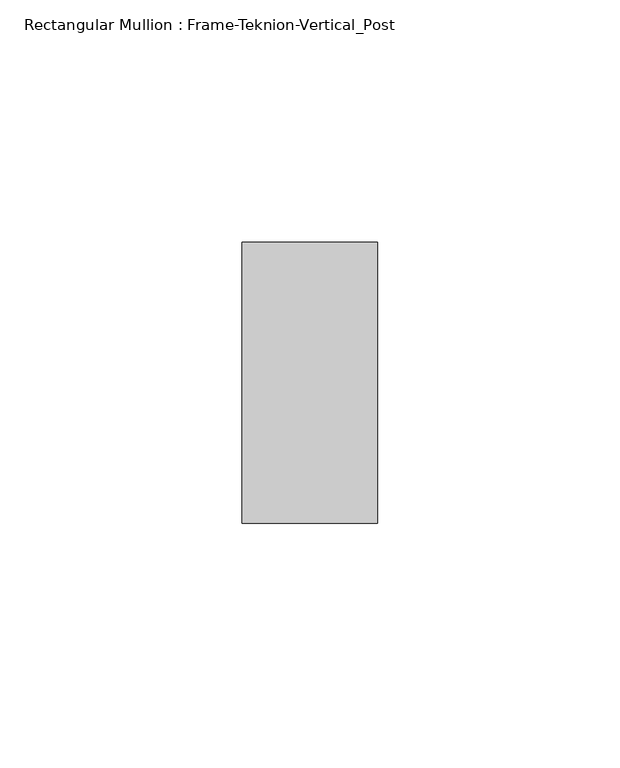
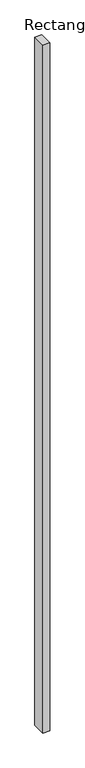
"""IFC4 building model written with IfcOpenShell, lengths in millimetres: member geometry, Rectangular Mullion : Frame-Teknion-Vertical_Post."""

import ifcopenshell
import ifcopenshell.guid

model = None  # the IFC model being written
_history = None  # IfcOwnerHistory: only IFC2X3 demands one
_inside = {}  # id of a spatial element -> (the spatial element, [elements in it])
_under = {}  # id of a project, library or spatial element -> (it, [spatial elements below it])
_declared = {}  # id of a project -> (the project, [libraries it declares])
_typed = {}  # id of a type object -> (the type object, [elements of that type])
_made_of = {}  # id of a material, layer set ... -> (it, [elements and type objects made of it])


def new_model(schema):
    """Start an empty IFC model of exactly this schema.

    Asked for "IFC4X3", IfcOpenShell would pick the latest addendum, in which some entities
    have other attributes; the version numbers below select the first issue.
    IFC2X3 requires an IfcOwnerHistory on every rooted entity: one is made here for all.
    """
    global model, _history
    if schema == "IFC4X3":
        model = ifcopenshell.file(schema_version=(4, 3, 0, 0))
    else:
        model = ifcopenshell.file(schema=schema)
    _inside.clear()
    _under.clear()
    _declared.clear()
    _typed.clear()
    _made_of.clear()
    _history = None
    if model.schema == "IFC2X3":
        org = make("IfcOrganization", Name="unknown")
        user = make(
            "IfcPersonAndOrganization",
            ThePerson=make("IfcPerson", FamilyName="unknown"),
            TheOrganization=org,
        )
        app = make(
            "IfcApplication",
            ApplicationDeveloper=org,
            Version="unknown",
            ApplicationFullName="unknown",
            ApplicationIdentifier="unknown",
        )
        _history = make(
            "IfcOwnerHistory",
            OwningUser=user,
            OwningApplication=app,
            ChangeAction="ADDED",
            CreationDate=0,
        )
    return model


def make(cls, **values):
    """One entity of the class cls with the attributes given. An attribute that is None is left unset."""
    return model.create_entity(
        cls, **{name: value for name, value in values.items() if value is not None}
    )


def rooted(cls, **values):
    """An entity with a GlobalId (a new one), such as an element, a storey or a relation."""
    return make(cls, GlobalId=ifcopenshell.guid.new(), OwnerHistory=_history, **values)


def si_unit(unit_type, name, prefix=None):
    """IfcSIUnit, for example si_unit("LENGTHUNIT", "METRE", prefix="MILLI")."""
    return make("IfcSIUnit", UnitType=unit_type, Prefix=prefix, Name=name)


def assignment(units):
    """IfcUnitAssignment: the units of a project."""
    return None if units is None else make("IfcUnitAssignment", Units=units)


def point(xyz):
    """IfcCartesianPoint."""
    return None if xyz is None else make("IfcCartesianPoint", Coordinates=xyz)


def direction(xyz):
    """IfcDirection."""
    return None if xyz is None else make("IfcDirection", DirectionRatios=xyz)


def frame(location, z_axis=None, x_axis=None):
    """IfcAxis2Placement3D, a coordinate frame: its origin and axes. An axis left out is left unset."""
    return make(
        "IfcAxis2Placement3D",
        Location=point(location),
        Axis=direction(z_axis),
        RefDirection=direction(x_axis),
    )


def origin():
    """The frame at (0, 0, 0) with its axes left unset."""
    return frame((0.0, 0.0, 0.0))


def place(relative_to, where):
    """IfcLocalPlacement: puts the frame where relative to a parent placement (None: the world)."""
    return make(
        "IfcLocalPlacement", PlacementRelTo=relative_to, RelativePlacement=where
    )


def context(
    kind, dimensions, precision=None, world=None, true_north=None, identifier=None
):
    """IfcGeometricRepresentationContext, for example the 3D "Model" context."""
    return make(
        "IfcGeometricRepresentationContext",
        ContextIdentifier=identifier,
        ContextType=kind,
        CoordinateSpaceDimension=dimensions,
        Precision=precision,
        WorldCoordinateSystem=world,
        TrueNorth=true_north,
    )


def project(units=None, contexts=None):
    """IfcProject with its units and contexts."""
    return rooted(
        "IfcProject",
        Name="project",
        RepresentationContexts=contexts,
        UnitsInContext=assignment(units),
    )


def spatial(cls, under=None, at=None, **own):
    """A site, building, storey or space (cls), placed at a placement, below another one or the project."""
    s = rooted(cls, ObjectPlacement=at, **own)
    if under is not None:
        _under.setdefault(under.id(), (under, []))[1].append(s)
    return s


def polyline(points):
    """IfcPolyline through the points."""
    return make("IfcPolyline", Points=[point(p) for p in points])


def outline(outer, holes=None, kind="AREA"):
    """IfcArbitraryClosedProfileDef: a profile drawn as a closed curve; with holes, ...WithVoids."""
    if holes is None:
        return make("IfcArbitraryClosedProfileDef", ProfileType=kind, OuterCurve=outer)
    return make(
        "IfcArbitraryProfileDefWithVoids",
        ProfileType=kind,
        OuterCurve=outer,
        InnerCurves=holes,
    )


def extrude(swept, where, along, depth):
    """IfcExtrudedAreaSolid: the profile swept, set in the frame where, extruded along a direction by depth."""
    return make(
        "IfcExtrudedAreaSolid",
        SweptArea=swept,
        Position=where,
        ExtrudedDirection=direction(along),
        Depth=depth,
    )


def shape(context_of_items, identifier, shape_type, items):
    """IfcShapeRepresentation: the items that make up one representation, for example the "Body"."""
    return make(
        "IfcShapeRepresentation",
        ContextOfItems=context_of_items,
        RepresentationIdentifier=identifier,
        RepresentationType=shape_type,
        Items=items,
    )


def source(mapping_origin, context_of_items, identifier, shape_type, items):
    """IfcRepresentationMap: a shape defined once, which mapped items show again and again."""
    return make(
        "IfcRepresentationMap",
        MappingOrigin=mapping_origin,
        MappedRepresentation=shape(context_of_items, identifier, shape_type, items),
    )


def transform(
    local_origin,
    x_axis=None,
    y_axis=None,
    z_axis=None,
    scale=None,
    scale2=None,
    scale3=None,
    uniform=True,
):
    """IfcCartesianTransformationOperator3D, or its non-uniform kind. x_axis, y_axis, z_axis: its Axis1, 2, 3."""
    if uniform:
        return make(
            "IfcCartesianTransformationOperator3D",
            Axis1=direction(x_axis),
            Axis2=direction(y_axis),
            LocalOrigin=point(local_origin),
            Scale=scale,
            Axis3=direction(z_axis),
        )
    return make(
        "IfcCartesianTransformationOperator3DnonUniform",
        Axis1=direction(x_axis),
        Axis2=direction(y_axis),
        LocalOrigin=point(local_origin),
        Scale=scale,
        Axis3=direction(z_axis),
        Scale2=scale2,
        Scale3=scale3,
    )


def mapped(mapping_source, mapping_target):
    """IfcMappedItem: shows the shape of a source again, moved by a transform."""
    return make(
        "IfcMappedItem", MappingSource=mapping_source, MappingTarget=mapping_target
    )


def made_of(thing, what):
    """Note that an element or type object is made of a material, layer set ...; save() writes the relation."""
    if what is not None:
        _made_of.setdefault(what.id(), (what, []))[1].append(thing)
    return thing


def element(
    cls,
    number,
    at=None,
    inside=None,
    cuts=None,
    type_object=None,
    material=None,
    context=None,
    identifier="Body",
    shape_type=None,
    held_by="IfcProductDefinitionShape",
    body=None,
    shapes=None,
    **own,
):
    """One element of the class cls, such as IfcWall. Its Tag is "e" and its number.

    at: its placement. inside: the storey or other place that contains it. cuts: it is an
    opening in that element (IfcRelVoidsElement). A single representation is given by context,
    identifier, shape_type and body (its items); several are given by shapes. held_by: the class
    of the entity that holds the representations. save() writes the other relations.
    """
    e = rooted(cls, Tag="e%d" % number, ObjectPlacement=at, **own)
    if body is not None:
        shapes = [shape(context, identifier, shape_type, body)]
    if shapes is not None:
        e.Representation = make(held_by, Representations=shapes)
    if inside is not None:
        _inside.setdefault(inside.id(), (inside, []))[1].append(e)
    if cuts is not None:
        rooted(
            "IfcRelVoidsElement", RelatingBuildingElement=cuts, RelatedOpeningElement=e
        )
    if type_object is not None:
        _typed.setdefault(type_object.id(), (type_object, []))[1].append(e)
    return made_of(e, material)


def aggregate(whole, parts):
    """IfcRelAggregates: a whole, such as a stair, and the parts it consists of."""
    return rooted("IfcRelAggregates", RelatingObject=whole, RelatedObjects=parts)


def save(model, path):
    """Write the relations noted so far, then the file.

    IfcRelAggregates (storeys below a building ...), IfcRelContainedInSpatialStructure (elements
    in a storey), IfcRelDefinesByType, IfcRelAssociatesMaterial and IfcRelDeclares: one each for
    every whole, place, type object, material and project.
    """
    for whole, parts in _under.values():
        aggregate(whole, parts)
    for where, things in _inside.values():
        rooted(
            "IfcRelContainedInSpatialStructure",
            RelatedElements=things,
            RelatingStructure=where,
        )
    for kind, things in _typed.values():
        rooted("IfcRelDefinesByType", RelatedObjects=things, RelatingType=kind)
    for what, things in _made_of.values():
        rooted("IfcRelAssociatesMaterial", RelatedObjects=things, RelatingMaterial=what)
    for by, libraries in _declared.values():
        rooted("IfcRelDeclares", RelatingContext=by, RelatedDefinitions=libraries)
    model.write(path)


def rectangular_mullion_frame_teknion_vertical_post_dacf658e(model_context):
    return source(origin(), model_context, "Body", "SweptSolid", [
        extrude(outline(polyline([(0.0, 28.971875), (0.0, -28.971875), (-27.9796875, -28.971875), (-27.9796875, 28.971875), (0.0, 28.971875)])), frame((0.0, 0.0, -3024.6835937), z_axis=(0.0, 0.0, 1.0), x_axis=(1.0, 0.0, 0.0)), (0.0, 0.0, 1.0), 3024.6835937),
    ])


if __name__ == "__main__":
    model = new_model("IFC4")
    model_context = context("Model", 3, world=origin())
    ifc_project = project(units=[si_unit("LENGTHUNIT", "METRE", prefix="MILLI")], contexts=[model_context])
    site = spatial("IfcSite", under=ifc_project)
    building = spatial("IfcBuilding", under=site)
    placement = place(None, origin())
    rectangular_mullion_frame_teknion_vertical_post_shape = rectangular_mullion_frame_teknion_vertical_post_dacf658e(model_context)
    element("IfcMember", 1, ObjectType="Rectangular Mullion : Frame-Teknion-Vertical_Post", at=placement, inside=building, context=model_context, shape_type="MappedRepresentation", body=[
        mapped(rectangular_mullion_frame_teknion_vertical_post_shape, transform((0.0, 0.0, 0.0), x_axis=(1.0, 0.0, 0.0), y_axis=(0.0, 1.0, 0.0), z_axis=(0.0, 0.0, 1.0))),
    ])
    save(model, "model.ifc")
